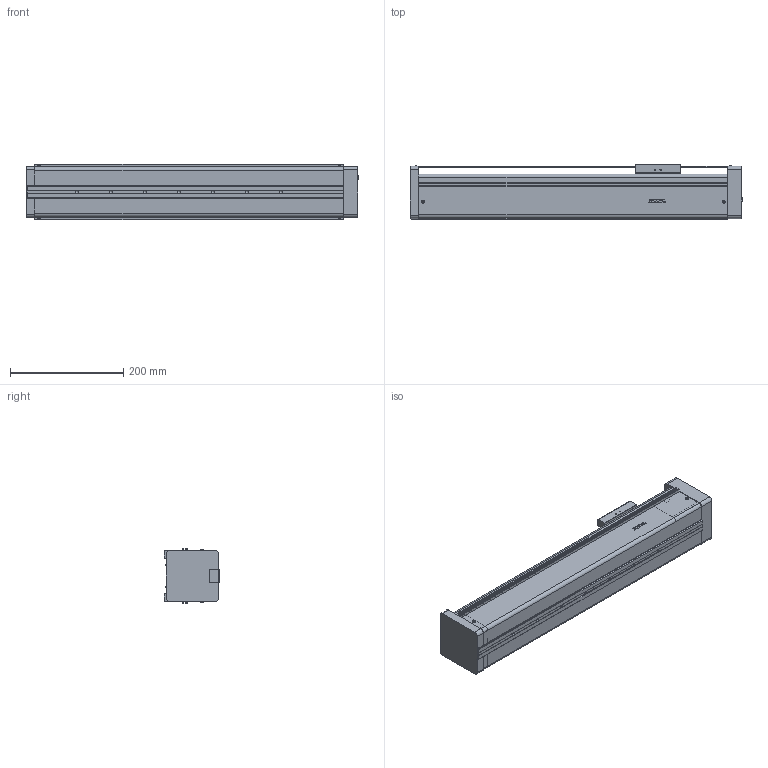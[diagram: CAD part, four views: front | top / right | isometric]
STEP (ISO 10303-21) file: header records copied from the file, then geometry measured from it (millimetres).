
FILE_DESCRIPTION(/* description */ (''),/* implementation_level */ '2;1');
FILE_NAME(/* name */ 'D:\混合母檔20191031\混和母檔\混和母檔\bin\Debug\Download\3D\KE9010C-350AF0\KE9010C-350AF0.stp',/* time_stamp */ '2019-11-04T14:24:39+08:00',/* author */ ('user'),/* organization */ (''),/* preprocessor_version */ 'ST-DEVELOPER v16.13',/* originating_system */ 'Autodesk Inventor 2018',/* authorisation */ '');
FILE_SCHEMA (('AUTOMOTIVE_DESIGN { 1 0 10303 214 3 1 1 }'));
Length unit declared in the file: millimetre
Products named in the file (3): KE9010C-350AF0; KE90-F0-BP; KE90-SL
Assembly tree (2 placements, depth 2):
  KE9010C-350AF0
    KE90-F0-BP
    KE90-SL
Bounding box: 586 x 98 x 98.4 mm (x, y, z)
Volume: 4078219.4 mm3; surface area: 389577.4 mm2
Topology: 3 solids, 22 shells, 875 faces, 2317 edges, 1529 vertices
Faces by surface type: plane 494, bspline 136, cone 117, cylinder 80, torus 40, sphere 8
Full cylindrical faces by diameter (mm): 2.5 x16, 3 x2, 3.3 x4, 4.2 x4, 4.5 x6, 4.917 x7, 5 x9, 8 x7, 46 x1, 50 x1
Entity records: 30568 total; most frequent: CARTESIAN_POINT 9562, ORIENTED_EDGE 4362, DIRECTION 3845, EDGE_CURVE 2181, VERTEX_POINT 1491, AXIS2_PLACEMENT_3D 1300, LINE 1245, VECTOR 1245
